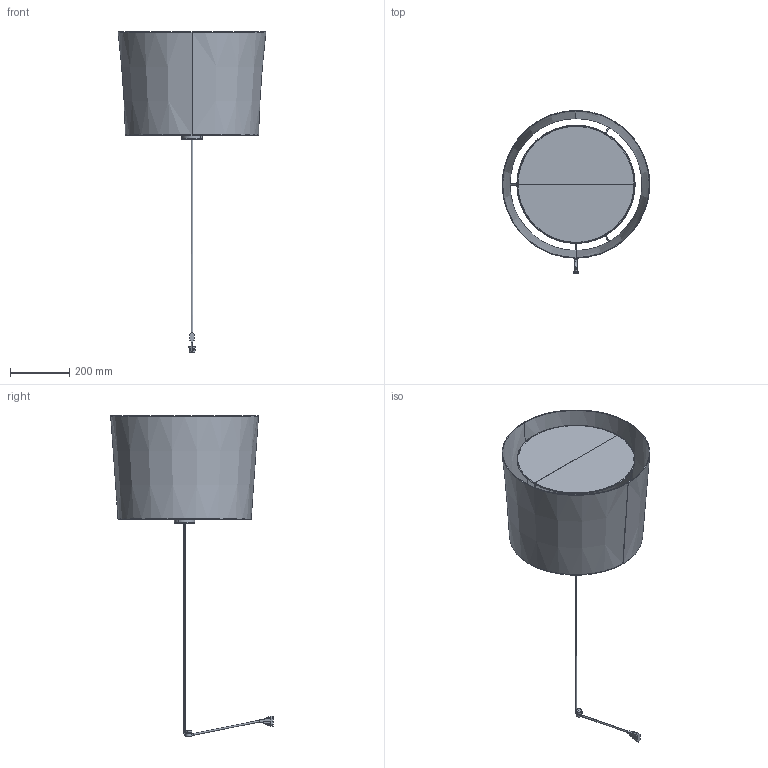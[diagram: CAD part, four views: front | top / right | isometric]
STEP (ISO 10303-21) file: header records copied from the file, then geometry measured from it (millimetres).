
FILE_DESCRIPTION(/* description */ (''),/* implementation_level */ '2;1');
FILE_NAME(/* name */ 'C:\Users\Franco Sartori E\Documents\FARO\DUPLICADO\Modelos\01_Digitalizados\2021\0_MAMBO_SAMBA_CONGA\03_Publicación\68604-55 wall.stp',/* time_stamp */ '2021-02-22T13:05:56+01:00',/* author */ ('Franco Sartori E'),/* organization */ (''),/* preprocessor_version */ 'ST-DEVELOPER v18.1',/* originating_system */ 'AutoCAD Mechanical',/* authorisation */ '');
FILE_SCHEMA (('AUTOMOTIVE_DESIGN { 1 0 10303 214 3 1 1 }'));
Length unit declared in the file: millimetre
Products named in the file (5): Product; 68604_Ceiling - LH-462647-_3D_; LAMP HOLDER - LH-462566-_3D_; 68604_Wall - LH-462648-_3D_; CONGA - SH-462646-_3D_
Assembly tree (4 placements, depth 2):
  Product
    68604_Ceiling - LH-462647-_3D_
    LAMP HOLDER - LH-462566-_3D_
    68604_Wall - LH-462648-_3D_
    CONGA - SH-462646-_3D_
Bounding box: 499.86 x 549.93 x 1082.5 mm (x, y, z)
Volume: 1243625.1 mm3; surface area: 2465845.6 mm2
Topology: 16 solids, 21 shells, 222 faces, 502 edges, 298 vertices
Faces by surface type: plane 91, cylinder 87, torus 28, cone 16
Entity records: 11471 total; most frequent: CARTESIAN_POINT 6533, DIRECTION 1006, ORIENTED_EDGE 975, EDGE_CURVE 500, AXIS2_PLACEMENT_3D 390, VERTEX_POINT 298, LINE 226, VECTOR 226
